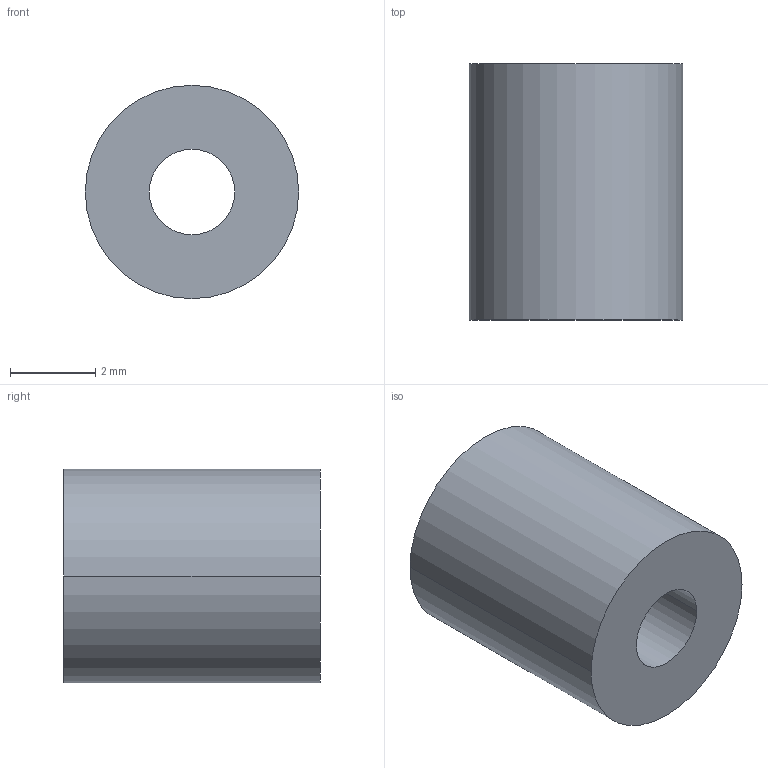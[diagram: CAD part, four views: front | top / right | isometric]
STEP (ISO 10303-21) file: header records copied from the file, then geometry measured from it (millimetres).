
FILE_DESCRIPTION (( 'STEP AP203' ), '1' );
FILE_NAME ('30800.WPP5A2.0.step', '2019-01-23T22:15:41', ( '' ), ( '' ), 'SwSTEP 2.0', 'SolidWorks 2017', '' );
FILE_SCHEMA (( 'CONFIG_CONTROL_DESIGN' ));
Length unit declared in the file: millimetre
Products named in the file (1): 30800.WPP5A2.0
Bounding box: 5 x 6 x 5 mm (x, y, z)
Volume: 97.3 mm3; surface area: 162.7 mm2
Topology: 1 solids, 1 shells, 8 faces, 16 edges, 10 vertices
Faces by surface type: cylinder 4, torus 2, plane 2
Entity records: 297 total; most frequent: DIRECTION 46, CARTESIAN_POINT 35, ORIENTED_EDGE 32, AXIS2_PLACEMENT_3D 21, EDGE_CURVE 16, CIRCLE 12, VERTEX_POINT 10, EDGE_LOOP 10
